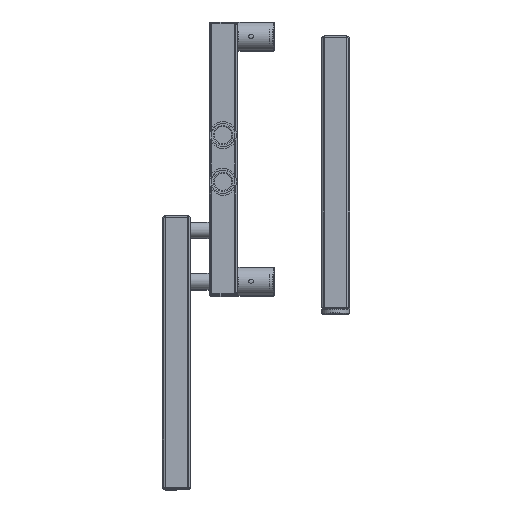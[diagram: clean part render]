
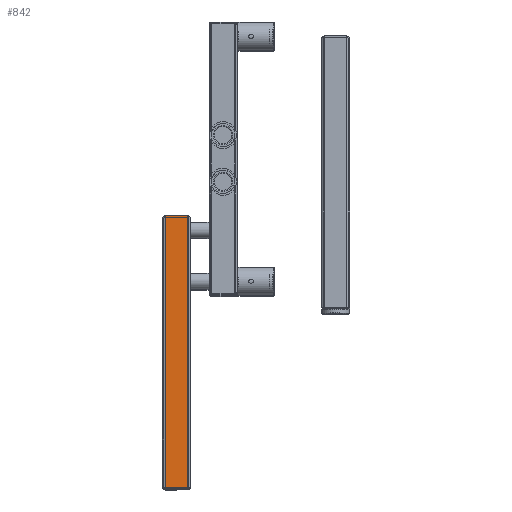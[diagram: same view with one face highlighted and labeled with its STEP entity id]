
A CAD part, top view. The second image highlights one B-rep face of the part: STEP entity #842.
In plain terms, the highlighted planar face has unit normal (0, 0, 1) as drawn and (0, -1, 0) by its records, which use the part's own axes.
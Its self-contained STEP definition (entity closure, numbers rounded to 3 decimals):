
#842 = ADVANCED_FACE( '', ( #1800 ), #1801, .T. );
#1800 = FACE_OUTER_BOUND( '', #3107, .T. );
#1801 = PLANE( '', #3108 );
#3107 = EDGE_LOOP( '', ( #4938, #4939, #4940, #4941 ) );
#3108 = AXIS2_PLACEMENT_3D( '', #4942, #4943, #4944 );
#4938 = ORIENTED_EDGE( '', *, *, #7287, .T. );
#4939 = ORIENTED_EDGE( '', *, *, #7288, .T. );
#4940 = ORIENTED_EDGE( '', *, *, #7289, .F. );
#4941 = ORIENTED_EDGE( '', *, *, #7047, .T. );
#4942 = CARTESIAN_POINT( '', ( 15., -15., 292.5 ) );
#4943 = DIRECTION( '', ( 0., -1., 0. ) );
#4944 = DIRECTION( '', ( 1., 0., 0. ) );
#7047 = EDGE_CURVE( '', #8312, #8313, #8314, .F. );
#7287 = EDGE_CURVE( '', #8313, #8698, #8699, .T. );
#7288 = EDGE_CURVE( '', #8698, #8700, #8701, .T. );
#7289 = EDGE_CURVE( '', #8312, #8700, #8702, .T. );
#8312 = VERTEX_POINT( '', #10033 );
#8313 = VERTEX_POINT( '', #10034 );
#8314 = LINE( '', #10035, #10036 );
#8698 = VERTEX_POINT( '', #10683 );
#8699 = LINE( '', #10684, #10685 );
#8700 = VERTEX_POINT( '', #10686 );
#8701 = LINE( '', #10687, #10688 );
#8702 = LINE( '', #10689, #10690 );
#10033 = CARTESIAN_POINT( '', ( 12., -15., 0. ) );
#10034 = CARTESIAN_POINT( '', ( 12., -15., 292.5 ) );
#10035 = CARTESIAN_POINT( '', ( 12., -15., 292.5 ) );
#10036 = VECTOR( '', #11978, 1000. );
#10683 = CARTESIAN_POINT( '', ( -12., -15., 292.5 ) );
#10684 = CARTESIAN_POINT( '', ( 15., -15., 292.5 ) );
#10685 = VECTOR( '', #12334, 1000. );
#10686 = CARTESIAN_POINT( '', ( -12., -15., 0. ) );
#10687 = CARTESIAN_POINT( '', ( -12., -15., 292.5 ) );
#10688 = VECTOR( '', #12335, 1000. );
#10689 = CARTESIAN_POINT( '', ( 15., -15., 0. ) );
#10690 = VECTOR( '', #12336, 1000. );
#11978 = DIRECTION( '', ( 0., 0., -1. ) );
#12334 = DIRECTION( '', ( -1., 0., 0. ) );
#12335 = DIRECTION( '', ( 0., 0., -1. ) );
#12336 = DIRECTION( '', ( -1., 0., 0. ) );
